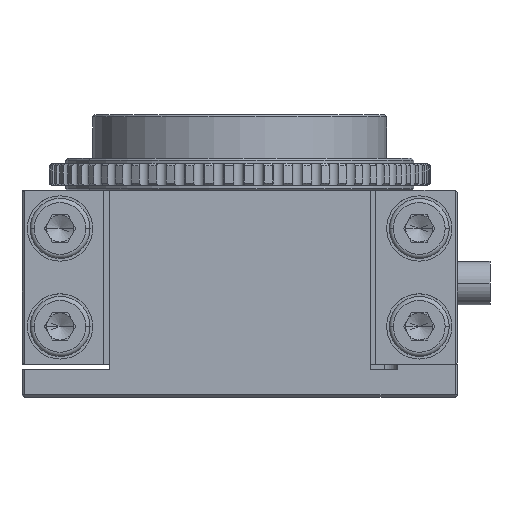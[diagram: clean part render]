
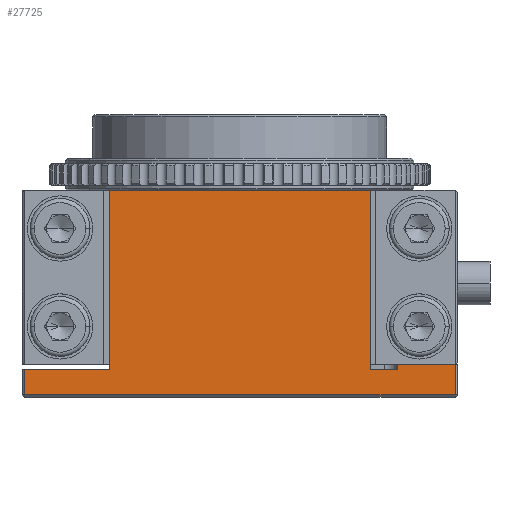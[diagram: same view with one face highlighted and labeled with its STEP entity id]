
A CAD part, top view. The second image highlights one B-rep face of the part: STEP entity #27725.
In plain terms, the highlighted planar face has unit normal (0, 0, 1).
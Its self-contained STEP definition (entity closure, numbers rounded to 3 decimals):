
#320 = LINE ( 'NONE', #9280, #20928 ) ;
#610 = VERTEX_POINT ( 'NONE', #3311 ) ;
#934 = EDGE_CURVE ( 'NONE', #7535, #6603, #3939, .T. ) ;
#1103 = VERTEX_POINT ( 'NONE', #7129 ) ;
#2702 = VECTOR ( 'NONE', #26586, 1000. ) ;
#2964 = ORIENTED_EDGE ( 'NONE', *, *, #25395, .T. ) ;
#3311 = CARTESIAN_POINT ( 'NONE',  ( -19.8, -3.811, 47.718 ) ) ;
#3487 = DIRECTION ( 'NONE',  ( 1., 0., 0. ) ) ;
#3498 = ORIENTED_EDGE ( 'NONE', *, *, #21481, .T. ) ;
#3564 = LINE ( 'NONE', #11933, #19878 ) ;
#3700 = CARTESIAN_POINT ( 'NONE',  ( -20., -3.811, 47.718 ) ) ;
#3939 = LINE ( 'NONE', #24572, #15944 ) ;
#4239 = CARTESIAN_POINT ( 'NONE',  ( 12., 14.989, 47.718 ) ) ;
#5162 = DIRECTION ( 'NONE',  ( 0., 1., 0. ) ) ;
#5551 = CARTESIAN_POINT ( 'NONE',  ( -19.8, -1.011, 47.718 ) ) ;
#5563 = FACE_OUTER_BOUND ( 'NONE', #19100, .T. ) ;
#5667 = ORIENTED_EDGE ( 'NONE', *, *, #11889, .T. ) ;
#5800 = CARTESIAN_POINT ( 'NONE',  ( -20., -1.511, 47.718 ) ) ;
#6534 = LINE ( 'NONE', #7728, #15364 ) ;
#6603 = VERTEX_POINT ( 'NONE', #9628 ) ;
#7129 = CARTESIAN_POINT ( 'NONE',  ( 12., -1.511, 47.718 ) ) ;
#7535 = VERTEX_POINT ( 'NONE', #17318 ) ;
#7583 = DIRECTION ( 'NONE',  ( 1., 0., 0. ) ) ;
#7728 = CARTESIAN_POINT ( 'NONE',  ( 19.8, -1.011, 47.718 ) ) ;
#7828 = CARTESIAN_POINT ( 'NONE',  ( -20., -1.011, 47.718 ) ) ;
#8020 = DIRECTION ( 'NONE',  ( -1., 0., 0. ) ) ;
#8108 = VECTOR ( 'NONE', #8247, 1000. ) ;
#8247 = DIRECTION ( 'NONE',  ( 1., 0., 0. ) ) ;
#8645 = EDGE_CURVE ( 'NONE', #19313, #610, #18946, .T. ) ;
#8793 = DIRECTION ( 'NONE',  ( 0., -1., 0. ) ) ;
#9252 = EDGE_CURVE ( 'NONE', #21343, #1103, #11776, .T. ) ;
#9280 = CARTESIAN_POINT ( 'NONE',  ( 14.5, -5.493, 47.718 ) ) ;
#9628 = CARTESIAN_POINT ( 'NONE',  ( 19.8, -1.011, 47.718 ) ) ;
#10554 = EDGE_CURVE ( 'NONE', #25289, #7535, #320, .T. ) ;
#11776 = LINE ( 'NONE', #4239, #28851 ) ;
#11835 = DIRECTION ( 'NONE',  ( 0., 1., 0. ) ) ;
#11889 = EDGE_CURVE ( 'NONE', #12436, #19313, #12288, .T. ) ;
#11933 = CARTESIAN_POINT ( 'NONE',  ( 12., 14.989, 47.718 ) ) ;
#12053 = ORIENTED_EDGE ( 'NONE', *, *, #934, .F. ) ;
#12288 = LINE ( 'NONE', #5800, #2702 ) ;
#12314 = EDGE_CURVE ( 'NONE', #1103, #25289, #14344, .T. ) ;
#12436 = VERTEX_POINT ( 'NONE', #28627 ) ;
#12503 = CARTESIAN_POINT ( 'NONE',  ( 12., 14.989, 47.718 ) ) ;
#13055 = ORIENTED_EDGE ( 'NONE', *, *, #12314, .F. ) ;
#13276 = VECTOR ( 'NONE', #26350, 1000. ) ;
#13879 = VERTEX_POINT ( 'NONE', #14046 ) ;
#14046 = CARTESIAN_POINT ( 'NONE',  ( -12., 14.989, 47.718 ) ) ;
#14275 = ORIENTED_EDGE ( 'NONE', *, *, #8645, .T. ) ;
#14344 = LINE ( 'NONE', #18949, #14708 ) ;
#14530 = ORIENTED_EDGE ( 'NONE', *, *, #10554, .F. ) ;
#14629 = CARTESIAN_POINT ( 'NONE',  ( -12., 14.989, 47.718 ) ) ;
#14708 = VECTOR ( 'NONE', #3487, 1000. ) ;
#14724 = DIRECTION ( 'NONE',  ( 0., -1., 0. ) ) ;
#15364 = VECTOR ( 'NONE', #5162, 1000. ) ;
#15641 = ORIENTED_EDGE ( 'NONE', *, *, #9252, .F. ) ;
#15856 = CARTESIAN_POINT ( 'NONE',  ( -19.8, -1.511, 47.718 ) ) ;
#15944 = VECTOR ( 'NONE', #20360, 1000. ) ;
#16597 = EDGE_CURVE ( 'NONE', #13879, #12436, #19091, .T. ) ;
#16753 = ORIENTED_EDGE ( 'NONE', *, *, #27063, .F. ) ;
#17138 = ORIENTED_EDGE ( 'NONE', *, *, #16597, .T. ) ;
#17318 = CARTESIAN_POINT ( 'NONE',  ( 14.5, -1.011, 47.718 ) ) ;
#17408 = CARTESIAN_POINT ( 'NONE',  ( 14.5, -1.511, 47.718 ) ) ;
#17708 = LINE ( 'NONE', #3700, #8108 ) ;
#18025 = VERTEX_POINT ( 'NONE', #28134 ) ;
#18743 = VECTOR ( 'NONE', #14724, 1000. ) ;
#18946 = LINE ( 'NONE', #5551, #13276 ) ;
#18949 = CARTESIAN_POINT ( 'NONE',  ( 12., -1.511, 47.718 ) ) ;
#19091 = LINE ( 'NONE', #14629, #18743 ) ;
#19100 = EDGE_LOOP ( 'NONE', ( #12053, #14530, #13055, #15641, #16753, #17138, #5667, #14275, #3498, #2964 ) ) ;
#19313 = VERTEX_POINT ( 'NONE', #15856 ) ;
#19878 = VECTOR ( 'NONE', #7583, 1000. ) ;
#20360 = DIRECTION ( 'NONE',  ( 1., 0., 0. ) ) ;
#20807 = AXIS2_PLACEMENT_3D ( 'NONE', #7828, #28312, #8020 ) ;
#20928 = VECTOR ( 'NONE', #11835, 1000. ) ;
#21343 = VERTEX_POINT ( 'NONE', #12503 ) ;
#21481 = EDGE_CURVE ( 'NONE', #610, #18025, #17708, .T. ) ;
#24572 = CARTESIAN_POINT ( 'NONE',  ( -20., -1.011, 47.718 ) ) ;
#25289 = VERTEX_POINT ( 'NONE', #17408 ) ;
#25395 = EDGE_CURVE ( 'NONE', #18025, #6603, #6534, .T. ) ;
#26058 = PLANE ( 'NONE',  #20807 ) ;
#26350 = DIRECTION ( 'NONE',  ( 0., -1., 0. ) ) ;
#26586 = DIRECTION ( 'NONE',  ( -1., 0., 0. ) ) ;
#27063 = EDGE_CURVE ( 'NONE', #13879, #21343, #3564, .T. ) ;
#27725 = ADVANCED_FACE ( 'NONE', ( #5563 ), #26058, .F. ) ;
#28134 = CARTESIAN_POINT ( 'NONE',  ( 19.8, -3.811, 47.718 ) ) ;
#28312 = DIRECTION ( 'NONE',  ( 0., 0., -1. ) ) ;
#28627 = CARTESIAN_POINT ( 'NONE',  ( -12., -1.511, 47.718 ) ) ;
#28851 = VECTOR ( 'NONE', #8793, 1000. ) ;
